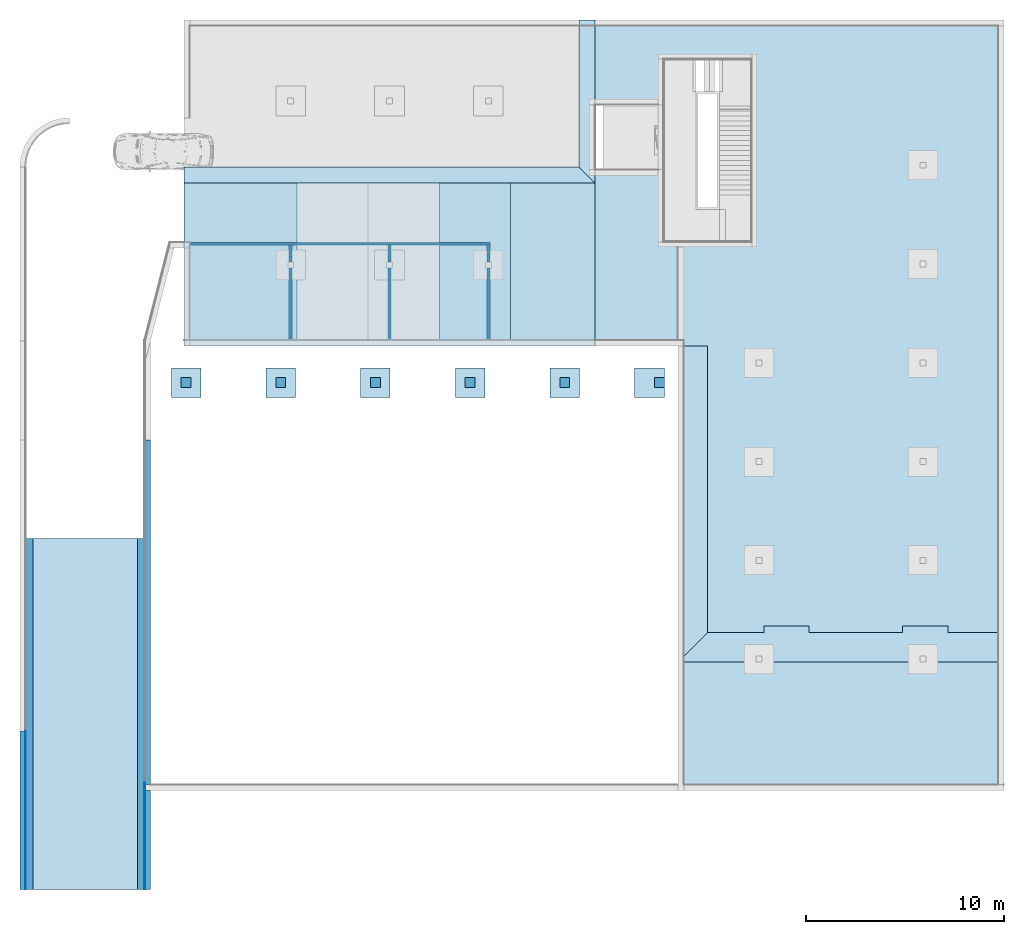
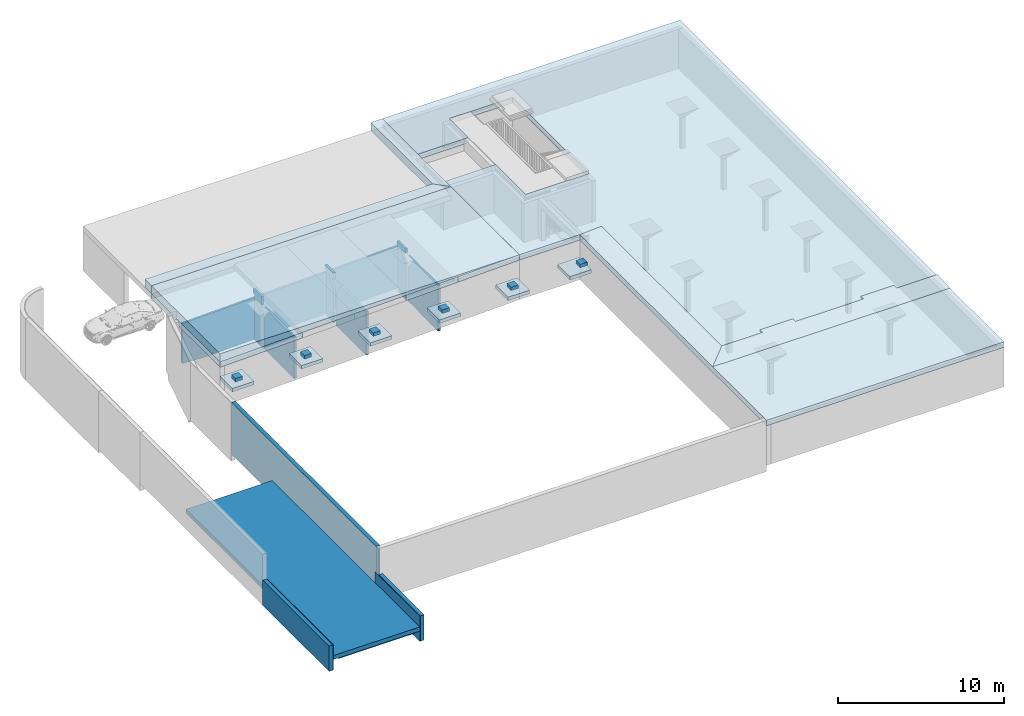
# One storey, part 1 of 7: 13 footings, 9 slabs, 7 walls, 5 building element parts, 1 ramp, 3 elements without a shape of their own.
"""IFC4 building model written with IfcOpenShell, lengths in millimetres."""

from ifc_helpers import new_model, entity, si_unit, converted_unit, derived_unit, direction, frame, origin_with_axes, place, context, subcontext, project, spatial, polygons, material, constituent, constituent_set, type_object, element, aggregate, save


model = new_model("IFC4")

# Units and contexts
model_context = context("Model", 3, precision=0.01, world=origin_with_axes(), true_north=direction((0.0, 1.0)))
body_context = subcontext(model_context, "Body", "Model", "MODEL_VIEW")
ifc_project = project(units=[si_unit("LENGTHUNIT", "METRE", prefix="MILLI"), si_unit("AREAUNIT", "SQUARE_METRE"), si_unit("VOLUMEUNIT", "CUBIC_METRE"), converted_unit("PLANEANGLEUNIT", "DEGREE", entity("IfcPlaneAngleMeasure", 0.0174532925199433), si_unit("PLANEANGLEUNIT", "RADIAN"), dimensions=[0, 0, 0, 0, 0, 0, 0]), converted_unit("TIMEUNIT", "Year", entity("IfcTimeMeasure", 31557600.0), si_unit("TIMEUNIT", "SECOND"), dimensions=[0, 0, 1, 0, 0, 0, 0]), si_unit("MASSUNIT", "GRAM", prefix="KILO"), si_unit("THERMODYNAMICTEMPERATUREUNIT", "DEGREE_CELSIUS"), si_unit("LUMINOUSINTENSITYUNIT", "LUMEN"), si_unit("ENERGYUNIT", "JOULE", prefix="MEGA"), derived_unit("THERMALCONDUCTANCEUNIT", [(si_unit("POWERUNIT", "WATT"), 1), (si_unit("LENGTHUNIT", "METRE"), -1), (si_unit("THERMODYNAMICTEMPERATUREUNIT", "KELVIN"), -1)]), derived_unit("SPECIFICHEATCAPACITYUNIT", [(si_unit("ENERGYUNIT", "JOULE"), 1), (si_unit("MASSUNIT", "GRAM", prefix="KILO"), -1), (si_unit("THERMODYNAMICTEMPERATUREUNIT", "KELVIN"), -1)]), derived_unit("MASSDENSITYUNIT", [(si_unit("MASSUNIT", "GRAM", prefix="KILO"), 1), (si_unit("VOLUMEUNIT", "CUBIC_METRE"), -1)])], contexts=[model_context])

# Site, building, storey
site_placement = place(None, origin_with_axes())
site = spatial("IfcSite", under=ifc_project, at=site_placement, Name="Gelände", CompositionType="ELEMENT")
building_placement = place(site_placement, origin_with_axes())
building = spatial("IfcBuilding", under=site, at=building_placement, Name="Gebäude", CompositionType="ELEMENT")
storey_placement = place(building_placement, frame((0.0, 0.0, -3900.000000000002), z_axis=(0.0, 0.0, 1.0), x_axis=(1.0, 0.0, 0.0)))
storey = spatial("IfcBuildingStorey", under=building, at=storey_placement, Name="UG", CompositionType="ELEMENT", Elevation=-3900.0)

# Footings
ifc_material_1 = material(Name="Magerbeton")
footing_type_1 = type_object("IfcFootingType", Name="Magerbeton 50", PredefinedType="NOTDEFINED")
footing_placement = place(storey_placement, frame((-16221.00255522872, -4552.402718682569, 900.0478633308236), z_axis=(0.0, 0.0, 1.0), x_axis=(1.0, 0.0, 0.0)))
element("IfcFooting", 1, at=footing_placement, inside=storey, type_object=footing_type_1, material=ifc_material_1, Name="Deckennr.-068", PredefinedType="NOTDEFINED", context=body_context, shape_type="Tessellation", body=[
    polygons([(0.0, 0.0, 0.0), (0.0, 0.0, -49.99999999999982), (5299.999999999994, 0.0, -49.99999999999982), (5299.999999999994, 0.0, 0.0), (0.0, 17749.99997615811, 0.0), (0.0, 17749.99997615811, -49.99999999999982), (5299.999999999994, 17749.99997615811, -49.99999999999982), (5299.999999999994, 17749.99997615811, 0.0)], [[[1, 2, 3, 4]], [[5, 6, 2, 1]], [[3, 2, 6, 7]], [[4, 3, 7, 8]], [[5, 1, 4, 8]], [[8, 7, 6, 5]]], closed=True),
])
ifc_material_2 = material(Name="Beton bewehrt")
footing_type_2 = type_object("IfcFootingType", Name="Beton bewehrt 1500 x 1500", PredefinedType="NOTDEFINED")
for number, where, z_axis, x_axis in (
    (2, (14987.99581849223, 21097.59674077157, 2900.000051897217), (0.0, 0.0, 1.0), (1.0, 0.0, 0.0)),
    (3, (-3675.204181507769, 21097.59674077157, 2900.000051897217), (0.0, 0.0, 1.0), (1.0, 0.0, 0.0)),
    (4, (1115.595818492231, 21097.59674077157, 2900.000051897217), (0.0, 0.0, 1.0), (1.0, 0.0, 0.0)),
    (5, (10697.19581849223, 21097.59674077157, 2900.000051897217), (0.0, 0.0, 1.0), (1.0, 0.0, 0.0)),
    (6, (5906.39581849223, 21097.59674077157, 2900.000051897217), (0.0, 0.0, 1.0), (1.0, 0.0, 0.0)),
    (7, (-8466.00418150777, 21097.59674077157, 2900.000051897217), (0.0, 0.0, 1.0), (1.0, 0.0, 0.0)),
):
    element("IfcFooting", number, at=place(storey_placement, frame(where, z_axis=z_axis, x_axis=x_axis)), inside=storey, type_object=footing_type_2, material=ifc_material_2, Name="Stütze-015", PredefinedType="NOTDEFINED", context=body_context, shape_type="Tessellation", body=[
        polygons([(-750.0, -750.0, 250.0), (-750.0, -750.0, 0.0), (750.0, -750.0, 0.0), (750.0, -750.0, 250.0), (-750.0, 750.0, 250.0), (-750.0, 750.0, 0.0), (750.0, 750.0, 0.0), (750.0, 750.0, 250.0)], [[[1, 2, 3, 4]], [[5, 6, 2, 1]], [[3, 2, 6, 7]], [[4, 3, 7, 8]], [[5, 1, 4, 8]], [[8, 7, 6, 5]]], closed=True),
    ])
footing_type_3 = type_object("IfcFootingType", Name="Beton bewehrt 500 x 500", PredefinedType="NOTDEFINED")
for number, where, z_axis, x_axis in (
    (8, (15487.99581849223, 21097.59674077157, 3150.000051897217), (0.0, 0.0, 1.0), (1.0, 0.0, 0.0)),
    (9, (10697.19581849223, 21097.59674077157, 3150.000051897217), (0.0, 0.0, 1.0), (1.0, 0.0, 0.0)),
    (10, (5906.39581849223, 21097.59674077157, 3150.000051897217), (0.0, 0.0, 1.0), (1.0, 0.0, 0.0)),
    (11, (1115.595818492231, 21097.59674077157, 3150.000051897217), (0.0, 0.0, 1.0), (1.0, 0.0, 0.0)),
    (12, (-3675.204181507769, 21097.59674077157, 3150.000051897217), (0.0, 0.0, 1.0), (1.0, 0.0, 0.0)),
    (13, (-8466.00418150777, 21097.59674077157, 3150.000051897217), (0.0, 0.0, 1.0), (1.0, 0.0, 0.0)),
):
    element("IfcFooting", number, at=place(storey_placement, frame(where, z_axis=z_axis, x_axis=x_axis)), inside=storey, type_object=footing_type_3, material=ifc_material_2, Name="Stütze-015", PredefinedType="NOTDEFINED", context=body_context, shape_type="Tessellation", body=[
        polygons([(-250.0, -250.0, 250.0000000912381), (-250.0, -250.0, 0.0), (250.0, -250.0, 0.0), (250.0, -250.0, 250.0000000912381), (-250.0, 250.0, 250.0000000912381), (-250.0, 250.0, 0.0), (250.0, 250.0, 0.0), (250.0, 250.0, 250.0000000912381)], [[[1, 2, 3, 4]], [[5, 6, 2, 1]], [[3, 2, 6, 7]], [[4, 3, 7, 8]], [[5, 1, 4, 8]], [[8, 7, 6, 5]]], closed=True),
    ])

# Slabs
ifc_material_3 = material(Name="Gefällsbeton")
slab_type_1 = type_object("IfcSlabType", Name="Gefällsbeton", PredefinedType="NOTDEFINED")
slab_1_placement = place(storey_placement, frame((16428.99744477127, 6947.597281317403, 3900.000051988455), z_axis=(0.0, 0.0, 1.0), x_axis=(1.0, 0.0, 0.0)))
element("IfcSlab", 14, at=slab_1_placement, inside=storey, type_object=slab_type_1, material=ifc_material_3, Name="Gelände-005", PredefinedType="NOTDEFINED", context=body_context, shape_type="Tessellation", body=[
    polygons([(16499.97891662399, 1500.000000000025, 100.0), (13658.33333264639, 1500.000000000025, 100.0), (11368.33333264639, 1500.000000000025, 100.0), (6631.6666666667, 1500.000000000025, 100.0), (4341.666666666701, 1500.000000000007, 100.0), (1500.000000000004, 1500.000000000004, 100.0), (0.0, 0.0, 0.0), (16499.97891662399, 0.0, 0.0), (13658.33333264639, 1500.000000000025, 0.0), (16499.97891662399, 1500.000000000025, 0.0), (11368.33333264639, 1821.000000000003, 100.0), (13658.33333264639, 1821.000000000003, 100.0), (6631.6666666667, 1500.000000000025, 0.0), (11368.33333264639, 1500.000000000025, 0.0), (6631.666666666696, 1821.000000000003, 100.0), (4341.666666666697, 1820.999999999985, 100.0), (1500.000000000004, 1500.000000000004, 0.0), (4341.666666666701, 1500.000000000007, 0.0), (4341.666666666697, 1820.999999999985, 0.0), (6631.666666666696, 1821.000000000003, 0.0), (11368.33333264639, 1821.000000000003, 0.0), (13658.33333264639, 1821.000000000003, 0.0)], [[[1, 2, 3, 4, 5, 6, 7, 8]], [[9, 2, 1, 10]], [[11, 3, 2, 12]], [[13, 4, 3, 14]], [[4, 15, 16, 5]], [[17, 6, 5, 18]], [[7, 6, 17]], [[10, 8, 7, 17, 18, 19, 20, 13, 14, 21, 22, 9]], [[10, 1, 8]], [[22, 12, 2, 9]], [[14, 3, 11, 21]], [[21, 11, 12, 22]], [[20, 15, 4, 13]], [[19, 16, 15, 20]], [[18, 5, 16, 19]]], closed=True),
])
slab_2_placement = place(storey_placement, frame((16428.99744477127, 6947.597281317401, 3900.000051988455), z_axis=(0.0, 0.0, 1.0), x_axis=(1.0, 0.0, 0.0)))
element("IfcSlab", 15, at=slab_2_placement, inside=storey, type_object=slab_type_1, material=ifc_material_3, Name="Gelände-005", PredefinedType="NOTDEFINED", context=body_context, shape_type="Tessellation", body=[
    polygons([(1500.000000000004, 15999.99945945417, 100.0), (0.0, 15999.99945945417, 0.0), (0.0, 0.0, 0.0), (1500.000000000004, 1500.000000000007, 100.0), (1500.000000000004, 15999.99945945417, 0.0), (1500.000000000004, 1500.000000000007, 0.0)], [[[1, 2, 3, 4]], [[2, 1, 5]], [[5, 6, 3, 2]], [[6, 4, 3]], [[5, 1, 4, 6]]], closed=True),
])
slab_3_placement = place(storey_placement, frame((-8571.004157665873, 22947.59687024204, 3300.0), z_axis=(0.0, 0.0, 1.0), x_axis=(1.0, 0.0, 0.0)))
element("IfcSlab", 16, at=slab_3_placement, inside=storey, type_object=slab_type_1, material=ifc_material_3, Name="Gelände-006", PredefinedType="NOTDEFINED", context=body_context, shape_type="Tessellation", body=[
    polygons([(0.0, 0.0, 0.0), (0.0, 8250.00012888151, 0.0), (20800.00278412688, 8250.00012888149, 600.0000000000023), (20800.00278412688, 0.0, 600.0000000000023), (0.0, 0.0, 600.0000000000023), (0.0, 8250.00012888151, 600.0000000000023)], [[[1, 2, 3, 4]], [[2, 1, 5, 6]], [[3, 2, 6]], [[6, 5, 4, 3]], [[1, 4, 5]]], closed=True),
])
slab_type_2 = type_object("IfcSlabType", Name="Beton bewehrt 800 x 600", PredefinedType="NOTDEFINED")
slab_4_placement = place(storey_placement, frame((12228.998626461, 39447.59725747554, 3900.000051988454), z_axis=(0.0, 0.0, 1.0), x_axis=(-1.0, 0.0, 0.0)))
element("IfcSlab", 17, at=slab_4_placement, inside=storey, type_object=slab_type_2, material=ifc_material_2, Name="Unterzug-025", PredefinedType="NOTDEFINED", context=body_context, shape_type="Tessellation", body=[
    polygons([(0.0, 0.0, -600.0000000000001), (0.0, 8250.00025835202, -600.0000000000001), (799.999999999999, 7450.00025835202, -600.0000000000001), (800.0000000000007, 0.0, -600.0000000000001), (0.0, 0.0, 0.0), (0.0, 8250.00025835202, 0.0), (799.999999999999, 7450.00025835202, 0.0), (800.0000000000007, 0.0, 0.0)], [[[1, 2, 3, 4]], [[5, 6, 2, 1]], [[3, 2, 6, 7]], [[4, 3, 7, 8]], [[5, 1, 4, 8]], [[8, 7, 6, 5]]], closed=True),
])
slab_5_placement = place(storey_placement, frame((-8571.004157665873, 31197.59699912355, 3900.0), z_axis=(0.0, 0.0, 1.0), x_axis=(0.0, -1.0, 0.0)))
element("IfcSlab", 18, at=slab_5_placement, inside=storey, type_object=slab_type_2, material=ifc_material_2, Name="Unterzug-025", PredefinedType="NOTDEFINED", context=body_context, shape_type="Tessellation", body=[
    polygons([(0.0, 0.0, 0.0), (0.0, 20800.00278412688, 0.0), (-799.9999999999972, 20000.00278412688, 0.0), (-800.0000000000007, 0.0, 0.0), (0.0, 0.0, -600.0000000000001), (0.0, 20800.00278412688, -600.0000000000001), (-799.9999999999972, 20000.00278412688, -599.9999999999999), (-800.0000000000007, 0.0, -599.9999999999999)], [[[1, 2, 3, 4]], [[5, 6, 2, 1]], [[3, 2, 6, 7]], [[4, 3, 7, 8]], [[5, 1, 4, 8]], [[8, 7, 6, 5]]], closed=True),
])
ifc_constituent_1 = constituent(ifc_material_2, Name="Beton bewehrt")
ifc_constituent_set_1 = constituent_set(constituents=[ifc_constituent_1], Name="Geschossdecke Typ 09")
slab_type_3 = type_object("IfcSlabType", Name="Geschossdecke Typ 09 400", PredefinedType="NOTDEFINED")
slab_6_placement = place(storey_placement, frame((-8571.00297597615, 39447.59725747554, 2900.000092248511), z_axis=(0.0, 0.0, 1.0), x_axis=(7.161755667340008e-08, -0.9999999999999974, 0.0)))
element("IfcSlab", 19, at=slab_6_placement, inside=storey, type_object=slab_type_3, material=ifc_constituent_set_1, Name="Dach-011", PredefinedType="NOTDEFINED", context=body_context, shape_type="Tessellation", body=[
    polygons([(16500.00169945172, 16522.99761277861, 876.6590835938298), (8250.001441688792, 16522.99820362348, 876.6591006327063), (8250.001183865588, 12922.99820362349, 772.841737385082), (16500.00144162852, 12922.99761277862, 772.8417203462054), (16500.00169901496, 16522.99761286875, 476.4927899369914), (8250.001441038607, 16522.99820401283, 476.4928069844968), (8250.001183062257, 12922.99820393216, 372.6754437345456), (16500.00144103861, 12922.99761278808, 372.6754266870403)], [[[1, 2, 3, 4]], [[2, 1, 5, 6]], [[3, 2, 6, 7]], [[4, 3, 7, 8]], [[1, 4, 8, 5]], [[6, 5, 8, 7]]], closed=True),
])
ifc_constituent_2 = constituent(ifc_material_2, Name="Beton bewehrt")
ifc_constituent_set_2 = constituent_set(constituents=[ifc_constituent_2], Name="Geschossdecke Typ 09")
slab_7_placement = place(storey_placement, frame((-8571.00297597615, 39447.59725747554, 2900.000092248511), z_axis=(0.0, 0.0, 1.0), x_axis=(7.161755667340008e-08, -0.9999999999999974, 0.0)))
element("IfcSlab", 20, at=slab_7_placement, inside=storey, type_object=slab_type_3, material=ifc_constituent_set_2, Name="Dach-011", PredefinedType="NOTDEFINED", context=body_context, shape_type="Tessellation", body=[
    polygons([(16500.00092598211, 5722.997612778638, 565.2069938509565), (8250.00066821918, 5722.998203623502, 565.2070108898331), (8250.000258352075, 0.0005907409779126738, 400.1663103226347), (16500.000516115, -1.038813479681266e-07, 400.1662932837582), (16500.00092554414, 5722.99761286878, 165.0407001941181), (8250.000667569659, 5722.998204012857, 165.0407172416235), (8250.00025778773, 0.0005905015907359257, 1.665629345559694e-05), (16500.00051483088, 2.884501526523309e-07, -3.643654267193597e-07)], [[[1, 2, 3, 4]], [[2, 1, 5, 6]], [[3, 2, 6, 7]], [[4, 3, 7, 8]], [[1, 4, 8, 5]], [[6, 5, 8, 7]]], closed=True),
])
ifc_constituent_3 = constituent(ifc_material_2, Name="Beton bewehrt")
ifc_constituent_set_3 = constituent_set(constituents=[ifc_constituent_3], Name="Geschossdecke Typ 09")
slab_8_placement = place(storey_placement, frame((-8571.00297597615, 39447.59725747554, 2900.000092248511), z_axis=(0.0, 0.0, 1.0), x_axis=(7.161755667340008e-08, -0.9999999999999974, 0.0)))
element("IfcSlab", 21, at=slab_8_placement, inside=storey, type_object=slab_type_3, material=ifc_constituent_set_3, Name="Dach-011", PredefinedType="NOTDEFINED", context=body_context, shape_type="Tessellation", body=[
    polygons([(16500.00200576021, 20800.00042074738, 999.999959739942), (8250.001747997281, 20800.00101159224, 999.9999767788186), (8250.001441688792, 16522.99820362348, 876.6591006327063), (16500.00169945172, 16522.99761277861, 876.6590835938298), (16500.00200532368, 20800.00042083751, 599.8336660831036), (8250.001747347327, 20800.00101198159, 599.8336831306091), (8250.0014409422, 16522.99820324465, 476.4928069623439), (16500.00169891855, 16522.99761303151, 476.492789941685)], [[[1, 2, 3, 4]], [[2, 1, 5, 6]], [[3, 2, 6, 7]], [[4, 3, 7, 8]], [[1, 4, 8, 5]], [[6, 5, 8, 7]]], closed=True),
])
ifc_constituent_4 = constituent(ifc_material_2, Name="Beton bewehrt")
ifc_constituent_set_4 = constituent_set(constituents=[ifc_constituent_4], Name="Geschossdecke Typ 09")
slab_9_placement = place(storey_placement, frame((12228.99744477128, 22947.59710317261, 3900.0), z_axis=(0.0, 0.0, 1.0), x_axis=(1.0, 0.0, 0.0)))
element("IfcSlab", 22, at=slab_9_placement, inside=storey, type_object=slab_type_3, material=ifc_constituent_set_4, Name="Deckennr.-072", PredefinedType="NOTDEFINED", context=body_context, shape_type="Tessellation", body=[
    polygons([(4199.999999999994, 0.0, 0.0), (0.0, 0.0, 0.0), (0.0, 0.0, -400.0000000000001), (4199.999999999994, 0.0, -400.0000000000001), (3500.000000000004, 8925.000178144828, 0.0), (0.0, 8925.000178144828, 0.0), (4199.999999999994, -22499.99982185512, 0.0), (20699.99979757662, -22499.99982185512, 0.0), (20699.99979757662, 16500.00015430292, 0.0), (0.0, 16500.00015430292, 0.0), (0.0, 12200.00017814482, 0.0), (3500.000000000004, 12200.00017814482, 0.0), (3500.000000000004, 14490.00017814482, 0.0), (7900.000000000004, 14490.00017814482, 0.0), (7900.000000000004, 5300.000178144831, 0.0), (3500.000000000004, 5300.000178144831, 0.0), (0.0, 8925.000178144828, -400.0000000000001), (4199.999999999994, -22499.99982185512, -400.0000000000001), (3500.000000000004, 8925.000178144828, -400.0000000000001), (3500.000000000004, 5300.000178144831, -400.0000000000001), (7900.000000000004, 5300.000178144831, -400.0000000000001), (7900.000000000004, 14490.00017814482, -400.0000000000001), (3500.000000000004, 14490.00017814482, -400.0000000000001), (3500.000000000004, 12200.00017814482, -400.0000000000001), (0.0, 12200.00017814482, -400.0000000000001), (0.0, 16500.00015430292, -400.0000000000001), (20699.99979757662, 16500.00015430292, -400.0000000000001), (20699.99979757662, -22499.99982185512, -400.0000000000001)], [[[1, 2, 3, 4]], [[5, 6, 2, 1, 7, 8, 9, 10, 11, 12, 13, 14, 15, 16]], [[2, 6, 17, 3]], [[18, 4, 3, 17, 19, 20, 21, 22, 23, 24, 25, 26, 27, 28]], [[7, 1, 4, 18]], [[6, 5, 19, 17]], [[8, 7, 18, 28]], [[9, 8, 28, 27]], [[10, 9, 27, 26]], [[11, 10, 26, 25]], [[12, 11, 25, 24]], [[13, 12, 24, 23]], [[14, 13, 23, 22]], [[15, 14, 22, 21]], [[16, 15, 21, 20]], [[5, 16, 20, 19]]], closed=True),
])

# Walls
ifc_material_4 = material(Name="MW, Backstein, Sichtmauerwerk")
ifc_constituent_5 = constituent(ifc_material_4, Name="MW, Backstein, Sichtmauerwerk")
ifc_constituent_set_5 = constituent_set(constituents=[ifc_constituent_5], Name="Innenwand Typ 02")
wall_type_1 = type_object("IfcWallType", Name="Innenwand Typ 02 150", PredefinedType="NOTDEFINED")
wall_1_placement = place(storey_placement, frame((6828.997492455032, 26897.59725747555, 0.0), z_axis=(0.0, 0.0, 1.0), x_axis=(0.0, -1.0, 0.0)))
element("IfcWall", 23, at=wall_1_placement, inside=storey, type_object=wall_type_1, material=ifc_constituent_set_5, Name="Wand-017", PredefinedType="NOTDEFINED", context=body_context, shape_type="Tessellation", body=[
    polygons([(3649.000050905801, -75.00000000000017, 0.0), (3649.000050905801, -75.00000000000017, 3341.944820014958), (598.3114311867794, -74.99999999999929, 3341.944826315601), (0.0, -75.00000000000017, 2590.914967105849), (0.0, -75.00000000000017, 27.0341280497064), (1349.583853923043, -74.99999999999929, 66.61733801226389), (1351.537736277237, -75.00000000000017, 0.0), (3649.000050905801, 74.99999999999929, 0.0), (3649.000050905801, 75.00000000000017, 3346.270562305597), (0.0, 75.00000000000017, 3346.270562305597), (0.0, -1.501086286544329, 3344.064400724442), (600.0000000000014, -1.501043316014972, 3344.064400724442), (600.0000000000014, 75.00000000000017, 3344.064400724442), (0.0, 75.00000000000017, 2590.914967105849), (0.0, 75.00000000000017, 27.0341280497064), (1349.583853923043, 75.00000000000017, 66.61733801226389), (1351.537736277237, 75.00000000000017, 0.0), (0.0, 75.00000000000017, 3344.064400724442)], [[[1, 2, 3, 4, 5, 6, 7]], [[2, 1, 8, 9]], [[2, 9, 10, 11, 12, 3]], [[4, 3, 12, 13, 14]], [[5, 4, 14, 15]], [[6, 5, 15, 16]], [[7, 6, 16, 17]], [[1, 7, 17, 8]], [[9, 8, 17, 16, 15, 14, 13, 18, 10]], [[10, 18, 11]], [[18, 13, 12, 11]]], closed=True),
])
ifc_constituent_6 = constituent(ifc_material_4, Name="MW, Backstein, Sichtmauerwerk")
ifc_constituent_set_6 = constituent_set(constituents=[ifc_constituent_6], Name="Innenwand Typ 02")
wall_2_placement = place(storey_placement, frame((-8270.002529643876, 28198.59725747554, -114.643600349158), z_axis=(0.0, 0.0, 1.0), x_axis=(1.0, 0.0, 0.0)))
element("IfcWall", 24, at=wall_2_placement, inside=storey, type_object=wall_type_1, material=ifc_constituent_set_6, Name="Wand-016", PredefinedType="NOTDEFINED", context=body_context, shape_type="Tessellation", body=[
    polygons([(1553.909158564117, -150.0000058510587, 15.12059930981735), (1608.45461321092, -5.572349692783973e-06, 12.19402608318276), (15174.00002209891, 0.0, 403.5078153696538), (15174.00002209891, -149.9999999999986, 408.0078151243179), (0.0, 0.0, 98.49379638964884), (0.0, -149.9999999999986, 98.49379638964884), (0.0, 0.0, 3023.323967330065), (15174.00002209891, 0.0, 3460.914404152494), (15174.00002209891, -149.9999999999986, 3460.914404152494), (0.0, -149.9999999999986, 3023.323967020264)], [[[1, 2, 3, 4]], [[5, 2, 1, 6]], [[2, 5, 7, 8, 3]], [[3, 8, 9, 4]], [[6, 1, 4, 9, 10]], [[5, 6, 10, 7]], [[7, 10, 9, 8]]], closed=True),
])
ifc_constituent_7 = constituent(ifc_material_4, Name="MW, Backstein, Sichtmauerwerk")
ifc_constituent_set_7 = constituent_set(constituents=[ifc_constituent_7], Name="Innenwand Typ 02")
wall_3_placement = place(storey_placement, frame((-3170.744596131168, 27197.59725747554, 0.0), z_axis=(0.0, 0.0, 1.0), x_axis=(0.0, 1.0, 0.0)))
element("IfcWall", 25, at=wall_3_placement, inside=storey, type_object=wall_type_1, material=ifc_constituent_set_7, Name="Wand-016", PredefinedType="NOTDEFINED", context=body_context, shape_type="Tessellation", body=[
    polygons([(0.0, -74.99999999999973, 3055.610282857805), (600.0000000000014, -75.00000000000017, 3055.610282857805), (0.0, -74.99999999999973, 2301.242936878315), (0.0, -75.00000000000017, 0.0), (851.0000000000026, -75.00000000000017, 0.0), (851.0000000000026, -75.00000000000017, 3346.270803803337), (1001.000000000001, -75.00000000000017, 3346.270803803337), (1001.000000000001, -75.00000000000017, 3650.000051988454), (0.0, -74.99999999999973, 3650.000051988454), (600.0000000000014, 75.00000000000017, 3055.610282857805), (0.0, 75.00000000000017, 3055.610282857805), (0.0, 75.00000000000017, 2301.242936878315), (0.0, 75.00000000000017, 0.0), (851.0000000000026, 75.00000000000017, 0.0), (851.0000000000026, 75.00000000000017, 3346.270803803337), (1001.000000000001, 75.00000000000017, 3346.270803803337), (1001.000000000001, 75.00000000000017, 3650.000051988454), (0.0, 75.00000000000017, 3650.000051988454)], [[[1, 2, 3, 4, 5, 6, 7, 8, 9]], [[10, 2, 1, 11]], [[12, 3, 2, 10]], [[4, 3, 12, 13]], [[4, 13, 14, 5]], [[14, 15, 6, 5]], [[6, 15, 16, 7]], [[17, 8, 7, 16]], [[17, 18, 9, 8]], [[18, 11, 1, 9]], [[12, 10, 11, 18, 17, 16, 15, 14, 13]]], closed=True),
])
ifc_constituent_8 = constituent(ifc_material_4, Name="MW, Backstein, Sichtmauerwerk")
ifc_constituent_set_8 = constituent_set(constituents=[ifc_constituent_8], Name="Innenwand Typ 02")
wall_4_placement = place(storey_placement, frame((-3170.744596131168, 26897.59725747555, 0.0), z_axis=(0.0, 0.0, 1.0), x_axis=(0.0, -1.0, 0.0)))
element("IfcWall", 26, at=wall_4_placement, inside=storey, type_object=wall_type_1, material=ifc_constituent_set_8, Name="Wand-017", PredefinedType="NOTDEFINED", context=body_context, shape_type="Tessellation", body=[
    polygons([(3649.000050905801, -75.00000000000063, 0.0), (3649.000050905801, -75.00000000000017, 3053.570693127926), (598.377779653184, -75.00000000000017, 3053.570699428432), (0.0, -74.99999999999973, 2301.242936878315), (0.0, -75.00000000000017, 0.0), (3649.000050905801, 74.99999999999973, 0.0), (3649.000050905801, 74.99999999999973, 3057.896453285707), (0.0, 75.00000000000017, 3057.896453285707), (0.0, -4.274875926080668, 3055.610282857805), (600.0000000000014, -4.274832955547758, 3055.610282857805), (600.0000000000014, 75.00000000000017, 3055.610282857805), (0.0, 75.00000000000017, 2301.242936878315), (0.0, 75.00000000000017, 0.0), (0.0, 75.00000000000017, 3055.610282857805)], [[[1, 2, 3, 4, 5]], [[2, 1, 6, 7]], [[3, 2, 7, 8, 9, 10]], [[4, 3, 10, 11, 12]], [[5, 4, 12, 13]], [[1, 5, 13, 6]], [[12, 11, 14, 8, 7, 6, 13]], [[8, 14, 9]], [[14, 11, 10, 9]]], closed=True),
])
ifc_constituent_9 = constituent(ifc_material_4, Name="MW, Backstein, Sichtmauerwerk")
ifc_constituent_set_9 = constituent_set(constituents=[ifc_constituent_9], Name="Innenwand Typ 02")
wall_5_placement = place(storey_placement, frame((1828.997492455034, 27197.59725747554, 0.0), z_axis=(0.0, 0.0, 1.0), x_axis=(0.0, 1.0, 0.0)))
element("IfcWall", 27, at=wall_5_placement, inside=storey, type_object=wall_type_1, material=ifc_constituent_set_9, Name="Wand-016", PredefinedType="NOTDEFINED", context=body_context, shape_type="Tessellation", body=[
    polygons([(0.0, -74.99999999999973, 3199.833621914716), (600.0000000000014, -74.99999999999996, 3199.833621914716), (0.0, -74.99999999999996, 2446.075216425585), (0.0, -75.00000000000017, 0.0), (851.0000000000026, -75.00000000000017, 0.0), (851.0000000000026, -74.99999999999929, 3346.270803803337), (1001.000000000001, -75.00000000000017, 3346.270803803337), (1001.000000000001, -75.00000000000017, 3650.000051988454), (0.0, -74.99999999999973, 3650.000051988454), (600.0000000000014, 75.00000000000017, 3199.833621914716), (0.0, 75.00000000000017, 3199.833621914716), (0.0, 75.00000000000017, 2446.075216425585), (0.0, 75.00000000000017, 0.0), (851.0000000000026, 75.00000000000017, 0.0), (851.0000000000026, 75.00000000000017, 3346.270803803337), (1001.000000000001, 74.99999999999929, 3346.270803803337), (1001.000000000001, 75.00000000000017, 3650.000051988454), (0.0, 75.00000000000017, 3650.000051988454)], [[[1, 2, 3, 4, 5, 6, 7, 8, 9]], [[10, 2, 1, 11]], [[12, 3, 2, 10]], [[4, 3, 12, 13]], [[4, 13, 14, 5]], [[14, 15, 6, 5]], [[6, 15, 16, 7]], [[17, 8, 7, 16]], [[17, 18, 9, 8]], [[18, 11, 1, 9]], [[12, 10, 11, 18, 17, 16, 15, 14, 13]]], closed=True),
])
ifc_constituent_10 = constituent(ifc_material_4, Name="MW, Backstein, Sichtmauerwerk")
ifc_constituent_set_10 = constituent_set(constituents=[ifc_constituent_10], Name="Innenwand Typ 02")
wall_6_placement = place(storey_placement, frame((6828.997492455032, 27197.59725747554, 0.0), z_axis=(0.0, 0.0, 1.0), x_axis=(0.0, 1.0, 0.0)))
element("IfcWall", 28, at=wall_6_placement, inside=storey, type_object=wall_type_1, material=ifc_constituent_set_10, Name="Wand-016", PredefinedType="NOTDEFINED", context=body_context, shape_type="Tessellation", body=[
    polygons([(0.0, -75.00000000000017, 3344.064400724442), (600.0000000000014, -75.00000000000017, 3344.064400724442), (0.0, -75.00000000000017, 2590.914967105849), (0.0, -75.00000000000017, 0.0), (851.0000000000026, -75.00000000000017, 0.0), (851.0000000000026, -75.00000000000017, 3346.270803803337), (1001.000000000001, -75.00000000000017, 3346.270803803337), (1001.000000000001, -75.00000000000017, 3650.000051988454), (0.0, -75.00000000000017, 3650.000051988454), (600.0000000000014, 75.00000000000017, 3344.064400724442), (0.0, 75.00000000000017, 3344.064400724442), (0.0, 75.00000000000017, 2590.914967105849), (0.0, 75.00000000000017, 0.0), (851.0000000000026, 75.00000000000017, 0.0), (851.0000000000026, 75.00000000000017, 3346.270803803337), (1001.000000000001, 74.99999999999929, 3346.270803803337), (1001.000000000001, 75.00000000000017, 3650.000051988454), (0.0, 75.00000000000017, 3650.000051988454)], [[[1, 2, 3, 4, 5, 6, 7, 8, 9]], [[10, 2, 1, 11]], [[12, 3, 2, 10]], [[4, 3, 12, 13]], [[4, 13, 14, 5]], [[14, 15, 6, 5]], [[6, 15, 16, 7]], [[17, 8, 7, 16]], [[17, 18, 9, 8]], [[18, 11, 1, 9]], [[12, 10, 11, 18, 17, 16, 15, 14, 13]]], closed=True),
])
ifc_constituent_11 = constituent(ifc_material_4, Name="MW, Backstein, Sichtmauerwerk")
ifc_constituent_set_11 = constituent_set(constituents=[ifc_constituent_11], Name="Innenwand Typ 02")
wall_7_placement = place(storey_placement, frame((1828.997492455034, 26897.59725747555, 0.0), z_axis=(0.0, 0.0, 1.0), x_axis=(0.0, -1.0, 0.0)))
element("IfcWall", 29, at=wall_7_placement, inside=storey, type_object=wall_type_1, material=ifc_constituent_set_11, Name="Wand-017", PredefinedType="NOTDEFINED", context=body_context, shape_type="Tessellation", body=[
    polygons([(3649.000050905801, -75.0000000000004, 0.0), (3649.000050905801, -75.00000000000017, 3197.75403772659), (598.3446330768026, -74.99999999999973, 3197.754044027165), (0.0, -74.99999999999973, 2446.075216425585), (0.0, -74.99999999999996, 0.0), (3649.000050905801, 74.99999999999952, 0.0), (3649.000050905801, 74.99999999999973, 3202.079761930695), (0.0, 75.00000000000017, 3202.079761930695), (0.0, -2.888016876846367, 3199.833621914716), (600.0000000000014, -2.887973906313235, 3199.833621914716), (600.0000000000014, 75.00000000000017, 3199.833621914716), (0.0, 75.00000000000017, 2446.075216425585), (0.0, 74.99999999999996, 0.0), (0.0, 75.00000000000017, 3199.833621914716)], [[[1, 2, 3, 4, 5]], [[2, 1, 6, 7]], [[3, 2, 7, 8, 9, 10]], [[4, 3, 10, 11, 12]], [[5, 4, 12, 13]], [[1, 5, 13, 6]], [[12, 11, 14, 8, 7, 6, 13]], [[14, 9, 8]], [[9, 14, 11, 10]]], closed=True),
])

# Ramp
ramp_type = type_object("IfcRampType", Name="Beton bewehrt 300", PredefinedType="NOTDEFINED")
ramp_placement = place(storey_placement, frame((-16571.00255522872, -4552.402718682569, 1200.047863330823), z_axis=(0.0, 0.0, 1.0), x_axis=(1.0, 0.0, 0.0)))
element("IfcRamp", 30, at=ramp_placement, inside=storey, type_object=ramp_type, material=ifc_material_2, Name="Deckennr.-068", PredefinedType="NOTDEFINED", context=body_context, shape_type="Tessellation", body=[
    polygons([(0.0, 0.0, 0.0), (0.0, 0.0, -299.9999999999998), (5999.999999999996, 0.0, -299.9999999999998), (5999.999999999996, 0.0, 0.0), (0.0, 17749.99997615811, 0.0), (0.0, 17749.99997615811, -299.9999999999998), (5999.999999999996, 17749.99997615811, -299.9999999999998), (5999.999999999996, 17749.99997615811, 0.0)], [[[1, 2, 3, 4]], [[5, 6, 2, 1]], [[3, 2, 6, 7]], [[4, 3, 7, 8]], [[5, 1, 4, 8]], [[8, 7, 6, 5]]], closed=True),
])

# Wall, building element part
wall_type_2 = type_object("IfcWallType", Name="Aussenwand Typ 04 300", PredefinedType="NOTDEFINED")
wall_8_placement = place(storey_placement, frame((-10271.00255522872, 18197.59725747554, 135.0666652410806), z_axis=(0.0, 0.0, 1.0), x_axis=(0.0, -1.0, 0.0)))
wall_8 = element("IfcWall", 31, at=wall_8_placement, inside=storey, type_object=wall_type_2, Name="Wand-014", PredefinedType="NOTDEFINED")
building_element_part_1_placement = place(wall_8_placement, origin_with_axes())
building_element_part_1 = element("IfcBuildingElementPart", 32, at=building_element_part_1_placement, material=ifc_material_2, Name="Beton bewehrt", PredefinedType="NOTDEFINED", context=body_context, shape_type="Tessellation", body=[
    polygons([(17450.20177759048, -259.9999999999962, 3764.933386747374), (17450.20177759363, -259.9999999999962, 0.0), (17450.19983145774, 0.0, 0.0), (17450.19983143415, 0.0, 3764.933386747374), (0.0, -259.9999999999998, 3764.933386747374), (0.0, -259.9999999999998, 0.0), (0.0, 0.0, 0.0), (0.0, 0.0, 3764.933386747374)], [[[1, 2, 3, 4]], [[2, 1, 5, 6]], [[3, 2, 6, 7]], [[3, 7, 8, 4]], [[1, 4, 8, 5]], [[7, 6, 5, 8]]], closed=True),
])
aggregate(wall_8, [building_element_part_1])

# Wall, building element parts
wall_9_placement = place(storey_placement, frame((-16871.00255522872, 3447.597281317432, 135.0666652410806), z_axis=(0.0, 0.0, 1.0), x_axis=(0.0, -1.0, 0.0)))
wall_9 = element("IfcWall", 33, at=wall_9_placement, inside=storey, type_object=wall_type_2, Name="Wand-014", PredefinedType="NOTDEFINED")
ifc_material_5 = material(Name="Sichtbeton")
building_element_part_2_placement = place(wall_9_placement, origin_with_axes())
building_element_part_2 = element("IfcBuildingElementPart", 34, at=building_element_part_2_placement, material=ifc_material_5, Name="Sichtbeton", PredefinedType="NOTDEFINED", context=body_context, shape_type="Tessellation", body=[
    polygons([(8000.0, 300.0000000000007, 0.0), (8000.0, 259.999999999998, 0.0), (0.0, 260.0000000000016, 0.0), (0.0, 300.0000000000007, 0.0), (8000.0, 300.0000000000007, 1864.981198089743), (8000.0, 259.999999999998, 1864.981198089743), (0.0, 260.0000000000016, 1864.981198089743), (0.0, 300.0000000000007, 1864.981198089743)], [[[1, 2, 3, 4]], [[1, 5, 6, 2]], [[2, 6, 7, 3]], [[4, 3, 7, 8]], [[5, 1, 4, 8]], [[6, 5, 8, 7]]], closed=True),
])
building_element_part_3_placement = place(wall_9_placement, origin_with_axes())
building_element_part_3 = element("IfcBuildingElementPart", 35, at=building_element_part_3_placement, material=ifc_material_2, Name="Beton bewehrt", PredefinedType="NOTDEFINED", context=body_context, shape_type="Tessellation", body=[
    polygons([(8000.0, 259.999999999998, 0.0), (8000.0, 0.0, 0.0), (0.0, 0.0, 0.0), (0.0, 260.0000000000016, 0.0), (8000.0, 259.999999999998, 1864.981198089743), (8000.0, 0.0, 1864.981198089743), (0.0, 0.0, 1864.981198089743), (0.0, 260.0000000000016, 1864.981198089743)], [[[1, 2, 3, 4]], [[1, 5, 6, 2]], [[2, 6, 7, 3]], [[4, 3, 7, 8]], [[5, 1, 4, 8]], [[6, 5, 8, 7]]], closed=True),
])
aggregate(wall_9, [building_element_part_2, building_element_part_3])

wall_10_placement = place(storey_placement, frame((-10271.00255522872, 447.3974260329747, 135.0666652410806), z_axis=(0.0, 0.0, 1.0), x_axis=(7.485216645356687e-06, -0.9999999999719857, 0.0)))
wall_10 = element("IfcWall", 36, at=wall_10_placement, inside=storey, type_object=wall_type_2, Name="Wand-014", PredefinedType="NOTDEFINED")
building_element_part_4_placement = place(wall_10_placement, origin_with_axes())
building_element_part_4 = element("IfcBuildingElementPart", 37, at=building_element_part_4_placement, material=ifc_material_5, Name="Sichtbeton", PredefinedType="NOTDEFINED", context=body_context, shape_type="Tessellation", body=[
    polygons([(4999.800144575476, -259.9999999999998, 1864.981198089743), (-400.9999999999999, -259.9999999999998, 1864.981198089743), (-400.9999999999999, -300.0000000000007, 1864.981198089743), (4999.800144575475, -299.9999999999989, 1864.981198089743), (4999.800144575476, -259.9999999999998, 0.0), (-400.9999999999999, -259.9999999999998, 0.0), (-400.9999999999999, -300.0000000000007, 0.0), (4999.800144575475, -299.9999999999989, 0.0)], [[[1, 2, 3, 4]], [[5, 6, 2, 1]], [[2, 6, 7, 3]], [[4, 3, 7, 8]], [[8, 5, 1, 4]], [[8, 7, 6, 5]]], closed=True),
])
building_element_part_5_placement = place(wall_10_placement, origin_with_axes())
building_element_part_5 = element("IfcBuildingElementPart", 38, at=building_element_part_5_placement, material=ifc_material_2, Name="Beton bewehrt", PredefinedType="NOTDEFINED", context=body_context, shape_type="Tessellation", body=[
    polygons([(2.440111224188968e-06, 0.0, 0.0), (2.440111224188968e-06, 0.0, 1864.981198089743), (4999.800144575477, 0.0, 1864.981198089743), (4999.800144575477, 0.0, 0.0), (2.440111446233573e-06, -260.0000000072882, 1864.981198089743), (2.440111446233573e-06, -260.0000000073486, 0.0), (4999.800144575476, -259.9999999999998, 1864.981198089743), (4999.800144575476, -259.9999999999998, 0.0)], [[[1, 2, 3, 4]], [[5, 2, 1, 6]], [[2, 5, 7, 3]], [[4, 3, 7, 8]], [[6, 1, 4, 8]], [[5, 6, 8, 7]]], closed=True),
])
aggregate(wall_10, [building_element_part_4, building_element_part_5])

save(model, "model.ifc")
